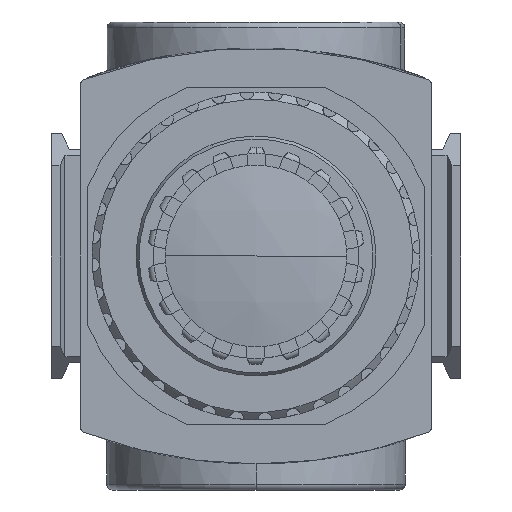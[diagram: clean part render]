
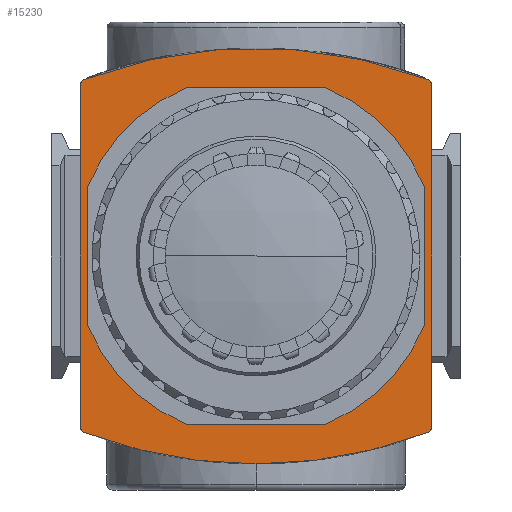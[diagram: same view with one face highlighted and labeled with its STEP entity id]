
A CAD part, front view. The second image highlights one B-rep face of the part: STEP entity #15230.
In plain terms, the highlighted planar face has unit normal (0, -1, 0).
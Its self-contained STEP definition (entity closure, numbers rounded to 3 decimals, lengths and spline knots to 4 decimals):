
#9629=FACE_BOUND('',#18745,.T.);
#10797=LINE('',#49115,#12751);
#10800=LINE('',#49123,#12754);
#10803=LINE('',#49131,#12757);
#10806=LINE('',#49139,#12760);
#10814=LINE('',#49167,#12768);
#10817=LINE('',#49174,#12771);
#12751=VECTOR('',#36477,1.);
#12754=VECTOR('',#36486,1.);
#12757=VECTOR('',#36495,1.);
#12760=VECTOR('',#36504,1.);
#12768=VECTOR('',#36532,1.);
#12771=VECTOR('',#36537,1.);
#14107=CIRCLE('',#33100,1.2251);
#14108=CIRCLE('',#33103,1.2251);
#14109=CIRCLE('',#33106,1.2251);
#14110=CIRCLE('',#33109,1.2251);
#14112=CIRCLE('',#33113,3.2677);
#14114=CIRCLE('',#33116,3.2677);
#14116=CIRCLE('',#33119,0.0394);
#14118=CIRCLE('',#33124,0.0394);
#14164=CIRCLE('',#33274,0.0394);
#14165=CIRCLE('',#33276,3.2677);
#14166=CIRCLE('',#33277,0.0394);
#15230=ADVANCED_FACE('',(#17335,#9629),#16124,.T.);
#16124=PLANE('',#33278);
#17335=FACE_OUTER_BOUND('',#18744,.T.);
#18744=EDGE_LOOP('',(#23069,#23070,#23071,#23072,#23073,#23074,#23075,#23076,
#23077));
#18745=EDGE_LOOP('',(#23078,#23079,#23080,#23081,#23082,#23083,#23084,#23085));
#23069=ORIENTED_EDGE('',*,*,#29845,.T.);
#23070=ORIENTED_EDGE('',*,*,#29848,.T.);
#23071=ORIENTED_EDGE('',*,*,#29832,.F.);
#23072=ORIENTED_EDGE('',*,*,#29836,.F.);
#23073=ORIENTED_EDGE('',*,*,#29839,.T.);
#23074=ORIENTED_EDGE('',*,*,#29842,.F.);
#23075=ORIENTED_EDGE('',*,*,#30060,.T.);
#23076=ORIENTED_EDGE('',*,*,#30061,.F.);
#23077=ORIENTED_EDGE('',*,*,#30062,.T.);
#23078=ORIENTED_EDGE('',*,*,#29828,.T.);
#23079=ORIENTED_EDGE('',*,*,#29826,.T.);
#23080=ORIENTED_EDGE('',*,*,#29824,.T.);
#23081=ORIENTED_EDGE('',*,*,#29822,.T.);
#23082=ORIENTED_EDGE('',*,*,#29820,.T.);
#23083=ORIENTED_EDGE('',*,*,#29818,.T.);
#23084=ORIENTED_EDGE('',*,*,#29816,.T.);
#23085=ORIENTED_EDGE('',*,*,#29813,.T.);
#27097=VERTEX_POINT('',#49110);
#27098=VERTEX_POINT('',#49111);
#27099=VERTEX_POINT('',#49116);
#27100=VERTEX_POINT('',#49120);
#27101=VERTEX_POINT('',#49124);
#27102=VERTEX_POINT('',#49128);
#27103=VERTEX_POINT('',#49132);
#27104=VERTEX_POINT('',#49136);
#27107=VERTEX_POINT('',#49146);
#27108=VERTEX_POINT('',#49148);
#27110=VERTEX_POINT('',#49154);
#27112=VERTEX_POINT('',#49160);
#27114=VERTEX_POINT('',#49166);
#27117=VERTEX_POINT('',#49173);
#27118=VERTEX_POINT('',#49175);
#27269=VERTEX_POINT('',#50815);
#27270=VERTEX_POINT('',#50819);
#29813=EDGE_CURVE('',#27097,#27098,#14107,.T.);
#29816=EDGE_CURVE('',#27099,#27097,#10797,.T.);
#29818=EDGE_CURVE('',#27100,#27099,#14108,.T.);
#29820=EDGE_CURVE('',#27101,#27100,#10800,.T.);
#29822=EDGE_CURVE('',#27102,#27101,#14109,.T.);
#29824=EDGE_CURVE('',#27103,#27102,#10803,.T.);
#29826=EDGE_CURVE('',#27104,#27103,#14110,.T.);
#29828=EDGE_CURVE('',#27098,#27104,#10806,.T.);
#29832=EDGE_CURVE('',#27107,#27108,#14112,.T.);
#29836=EDGE_CURVE('',#27110,#27107,#14114,.T.);
#29839=EDGE_CURVE('',#27110,#27112,#14116,.T.);
#29842=EDGE_CURVE('',#27114,#27112,#10814,.T.);
#29845=EDGE_CURVE('',#27118,#27117,#10817,.T.);
#29848=EDGE_CURVE('',#27117,#27108,#14118,.T.);
#30060=EDGE_CURVE('',#27114,#27269,#14164,.T.);
#30061=EDGE_CURVE('',#27270,#27269,#14165,.T.);
#30062=EDGE_CURVE('',#27270,#27118,#14166,.T.);
#33100=AXIS2_PLACEMENT_3D('',#49109,#36471,#36472);
#33103=AXIS2_PLACEMENT_3D('',#49119,#36481,#36482);
#33106=AXIS2_PLACEMENT_3D('',#49127,#36490,#36491);
#33109=AXIS2_PLACEMENT_3D('',#49135,#36499,#36500);
#33113=AXIS2_PLACEMENT_3D('',#49147,#36511,#36512);
#33116=AXIS2_PLACEMENT_3D('',#49155,#36519,#36520);
#33119=AXIS2_PLACEMENT_3D('',#49161,#36526,#36527);
#33124=AXIS2_PLACEMENT_3D('',#49179,#36543,#36544);
#33274=AXIS2_PLACEMENT_3D('',#50816,#36925,#36926);
#33276=AXIS2_PLACEMENT_3D('',#50818,#36929,#36930);
#33277=AXIS2_PLACEMENT_3D('',#50820,#36931,#36932);
#33278=AXIS2_PLACEMENT_3D('',#50821,#36933,#36934);
#36471=DIRECTION('',(0.,1.,0.));
#36472=DIRECTION('',(0.,0.,-1.));
#36477=DIRECTION('',(1.,0.,0.));
#36481=DIRECTION('',(0.,1.,0.));
#36482=DIRECTION('',(0.,0.,-1.));
#36486=DIRECTION('',(0.,0.,1.));
#36490=DIRECTION('',(0.,1.,0.));
#36491=DIRECTION('',(0.,0.,-1.));
#36495=DIRECTION('',(-1.,0.,0.));
#36499=DIRECTION('',(0.,1.,0.));
#36500=DIRECTION('',(0.,0.,-1.));
#36504=DIRECTION('',(0.,0.,-1.));
#36511=DIRECTION('',(0.,1.,0.));
#36512=DIRECTION('',(0.,0.,1.));
#36519=DIRECTION('',(0.,1.,0.));
#36520=DIRECTION('',(0.,0.,1.));
#36526=DIRECTION('',(0.,-1.,0.));
#36527=DIRECTION('',(0.,0.,1.));
#36532=DIRECTION('',(0.,0.,-1.));
#36537=DIRECTION('',(0.,0.,-1.));
#36543=DIRECTION('',(0.,-1.,0.));
#36544=DIRECTION('',(0.,0.,1.));
#36925=DIRECTION('',(0.,-1.,0.));
#36926=DIRECTION('',(0.,0.,-1.));
#36929=DIRECTION('',(0.,1.,0.));
#36930=DIRECTION('',(0.,0.,-1.));
#36931=DIRECTION('',(0.,-1.,0.));
#36932=DIRECTION('',(0.,0.,-1.));
#36933=DIRECTION('',(0.,-1.,0.));
#36934=DIRECTION('',(0.,0.,-1.));
#49109=CARTESIAN_POINT('',(0.,0.4724,0.));
#49110=CARTESIAN_POINT('',(0.4688,0.4724,1.1319));
#49111=CARTESIAN_POINT('',(1.1319,0.4724,0.4688));
#49115=CARTESIAN_POINT('',(0.,0.4724,1.1319));
#49116=CARTESIAN_POINT('',(-0.4688,0.4724,1.1319));
#49119=CARTESIAN_POINT('',(0.,0.4724,0.));
#49120=CARTESIAN_POINT('',(-1.1319,0.4724,0.4688));
#49123=CARTESIAN_POINT('',(-1.1319,0.4724,-2.4957));
#49124=CARTESIAN_POINT('',(-1.1319,0.4724,-0.4688));
#49127=CARTESIAN_POINT('',(0.,0.4724,0.));
#49128=CARTESIAN_POINT('',(-0.4688,0.4724,-1.1319));
#49131=CARTESIAN_POINT('',(0.,0.4724,-1.1319));
#49132=CARTESIAN_POINT('',(0.4688,0.4724,-1.1319));
#49135=CARTESIAN_POINT('',(0.,0.4724,0.));
#49136=CARTESIAN_POINT('',(1.1319,0.4724,-0.4688));
#49139=CARTESIAN_POINT('',(1.1319,0.4724,-2.4957));
#49146=CARTESIAN_POINT('',(0.,0.4724,-1.3992));
#49147=CARTESIAN_POINT('',(0.,0.4724,1.8685));
#49148=CARTESIAN_POINT('',(-1.1557,0.4724,-1.188));
#49154=CARTESIAN_POINT('',(1.1557,0.4724,-1.188));
#49155=CARTESIAN_POINT('',(0.,0.4724,1.8685));
#49160=CARTESIAN_POINT('',(1.1811,0.4724,-1.1512));
#49161=CARTESIAN_POINT('',(1.1417,0.4724,-1.1512));
#49166=CARTESIAN_POINT('',(1.1811,0.4724,1.1512));
#49167=CARTESIAN_POINT('',(1.1811,0.4724,1.1512));
#49173=CARTESIAN_POINT('',(-1.1811,0.4724,-1.1512));
#49174=CARTESIAN_POINT('',(-1.1811,0.4724,1.1512));
#49175=CARTESIAN_POINT('',(-1.1811,0.4724,1.1512));
#49179=CARTESIAN_POINT('',(-1.1417,0.4724,-1.1512));
#50815=CARTESIAN_POINT('',(1.1557,0.4724,1.188));
#50816=CARTESIAN_POINT('',(1.1417,0.4724,1.1512));
#50818=CARTESIAN_POINT('',(0.,0.4724,-1.8685));
#50819=CARTESIAN_POINT('',(-1.1557,0.4724,1.188));
#50820=CARTESIAN_POINT('',(-1.1417,0.4724,1.1512));
#50821=CARTESIAN_POINT('',(-1.378,0.4724,1.7024));
